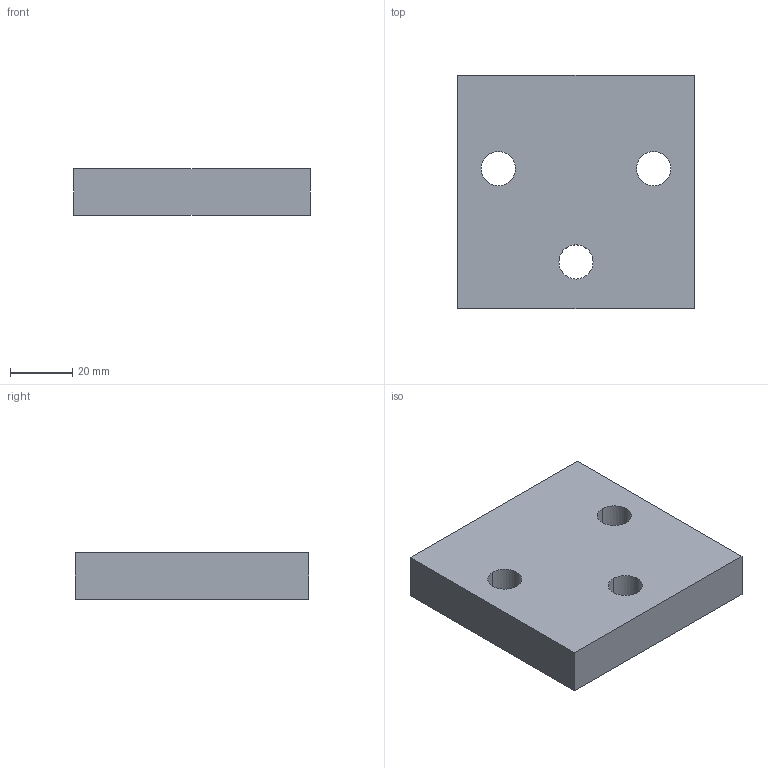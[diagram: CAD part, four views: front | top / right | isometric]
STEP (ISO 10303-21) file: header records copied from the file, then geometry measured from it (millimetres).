
FILE_DESCRIPTION((''),'2;1');
FILE_NAME('','2010-09-07T14:32:39+09:00',('misumi'),(''),'M/STEP i/f 1R2-14','CADmeister v5.1','');
FILE_SCHEMA(('AUTOMOTIVE_DESIGN'));
Length unit declared in the file: millimetre
Products named in the file (1): KEPNP80-15
Bounding box: 76 x 75 x 15 mm (x, y, z)
Volume: 81223.5 mm3; surface area: 16914.9 mm2
Topology: 1 solids, 1 shells, 12 faces, 30 edges, 20 vertices
Faces by surface type: plane 6, cylinder 6
Entity records: 464 total; most frequent: DIRECTION 68, CARTESIAN_POINT 63, ORIENTED_EDGE 60, EDGE_CURVE 30, AXIS2_PLACEMENT_3D 25, VERTEX_POINT 20, LINE 18, VECTOR 18
